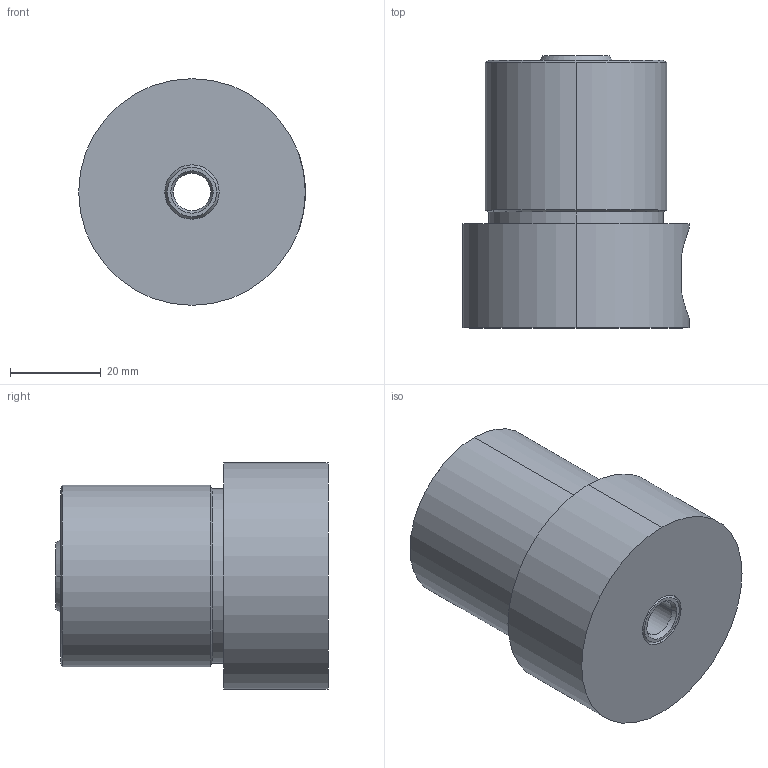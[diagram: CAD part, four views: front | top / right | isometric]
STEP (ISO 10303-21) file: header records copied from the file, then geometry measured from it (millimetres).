
FILE_DESCRIPTION (( 'STEP AP203' ), '1' );
FILE_NAME ('GERMA_Hohlkolbenzylinder_82-50-2-0.STEP', '2016-01-04T08:39:52', ( '' ), ( '' ), 'SwSTEP 2.0', 'SolidWorks 2015', '' );
FILE_SCHEMA (( 'CONFIG_CONTROL_DESIGN' ));
Length unit declared in the file: millimetre
Products named in the file (3): Gehaeuse 82-50-2_Geh„use; Kolben 82-50-X-0_Kolben; GERMA_Hohlkolbenzylinder_82-50-2-0
Assembly tree (2 placements, depth 2):
  GERMA_Hohlkolbenzylinder_82-50-2-0
    Gehaeuse 82-50-2_Geh„use
    Kolben 82-50-X-0_Kolben
Bounding box: 50 x 60 x 50 mm (x, y, z)
Volume: 82304 mm3; surface area: 21841.3 mm2
Topology: 2 solids, 2 shells, 67 faces, 138 edges, 84 vertices
Faces by surface type: cylinder 32, cone 20, plane 15
Entity records: 2135 total; most frequent: CARTESIAN_POINT 356, DIRECTION 356, ORIENTED_EDGE 268, AXIS2_PLACEMENT_3D 152, EDGE_CURVE 134, VERTEX_POINT 84, EDGE_LOOP 84, CIRCLE 80
